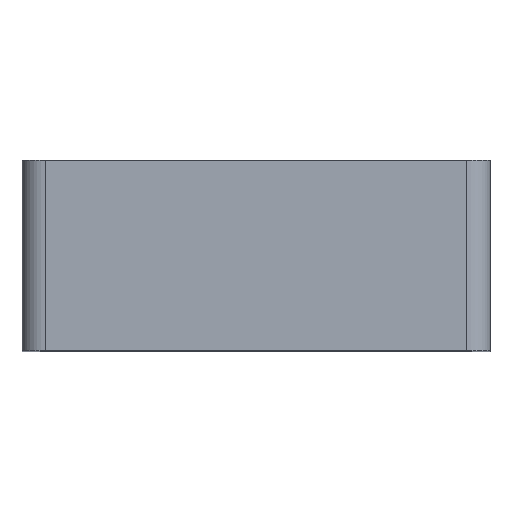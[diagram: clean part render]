
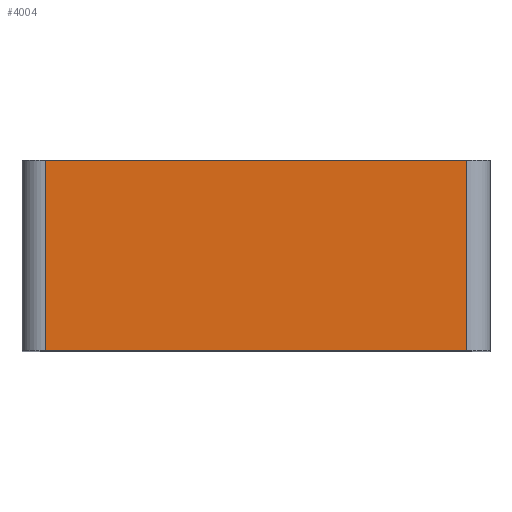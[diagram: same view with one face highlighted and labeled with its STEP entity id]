
A CAD part, top view. The second image highlights one B-rep face of the part: STEP entity #4004.
In plain terms, the highlighted planar face has unit normal (0, 0, 1).
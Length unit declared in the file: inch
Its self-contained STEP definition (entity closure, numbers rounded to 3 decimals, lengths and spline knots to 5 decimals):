
#21 = EDGE_LOOP ( 'NONE', ( #6892, #6885, #5702, #245 ) ) ;
#123 = DIRECTION ( 'NONE',  ( 0., -1., 0. ) ) ;
#134 = EDGE_CURVE ( 'NONE', #8182, #4298, #6354, .T. ) ;
#239 = VERTEX_POINT ( 'NONE', #5987 ) ;
#245 = ORIENTED_EDGE ( 'NONE', *, *, #5733, .T. ) ;
#329 = LINE ( 'NONE', #8153, #4448 ) ;
#714 = VECTOR ( 'NONE', #1178, 39.37008 ) ;
#1178 = DIRECTION ( 'NONE',  ( 0., -1., 0. ) ) ;
#1520 = LINE ( 'NONE', #4904, #714 ) ;
#2463 = VERTEX_POINT ( 'NONE', #4073 ) ;
#2786 = DIRECTION ( 'NONE',  ( 0., 0., -1. ) ) ;
#2946 = VECTOR ( 'NONE', #123, 39.37008 ) ;
#3023 = VECTOR ( 'NONE', #6628, 39.37008 ) ;
#3921 = AXIS2_PLACEMENT_3D ( 'NONE', #4718, #2786, #5336 ) ;
#3935 = FACE_OUTER_BOUND ( 'NONE', #21, .T. ) ;
#4004 = ADVANCED_FACE ( 'NONE', ( #3935 ), #7799, .F. ) ;
#4073 = CARTESIAN_POINT ( 'NONE',  ( -1.8, 1.625, 2.5 ) ) ;
#4298 = VERTEX_POINT ( 'NONE', #6370 ) ;
#4448 = VECTOR ( 'NONE', #7083, 39.37008 ) ;
#4559 = EDGE_CURVE ( 'NONE', #2463, #8182, #329, .T. ) ;
#4718 = CARTESIAN_POINT ( 'NONE',  ( -1.8, 1.625, 2.5 ) ) ;
#4781 = EDGE_CURVE ( 'NONE', #239, #4298, #7225, .T. ) ;
#4904 = CARTESIAN_POINT ( 'NONE',  ( -1.8, 1.625, 2.5 ) ) ;
#5336 = DIRECTION ( 'NONE',  ( -1., 0., 0. ) ) ;
#5702 = ORIENTED_EDGE ( 'NONE', *, *, #4559, .F. ) ;
#5733 = EDGE_CURVE ( 'NONE', #2463, #239, #1520, .T. ) ;
#5987 = CARTESIAN_POINT ( 'NONE',  ( -1.8, 0., 2.5 ) ) ;
#6010 = CARTESIAN_POINT ( 'NONE',  ( 1.8, 1.625, 2.5 ) ) ;
#6354 = LINE ( 'NONE', #6010, #2946 ) ;
#6370 = CARTESIAN_POINT ( 'NONE',  ( 1.8, 0., 2.5 ) ) ;
#6502 = CARTESIAN_POINT ( 'NONE',  ( 1.8, 1.625, 2.5 ) ) ;
#6628 = DIRECTION ( 'NONE',  ( 1., 0., 0. ) ) ;
#6683 = CARTESIAN_POINT ( 'NONE',  ( -1.8, 0., 2.5 ) ) ;
#6885 = ORIENTED_EDGE ( 'NONE', *, *, #134, .F. ) ;
#6892 = ORIENTED_EDGE ( 'NONE', *, *, #4781, .T. ) ;
#7083 = DIRECTION ( 'NONE',  ( 1., 0., 0. ) ) ;
#7225 = LINE ( 'NONE', #6683, #3023 ) ;
#7799 = PLANE ( 'NONE',  #3921 ) ;
#8153 = CARTESIAN_POINT ( 'NONE',  ( -1.8, 1.625, 2.5 ) ) ;
#8182 = VERTEX_POINT ( 'NONE', #6502 ) ;
